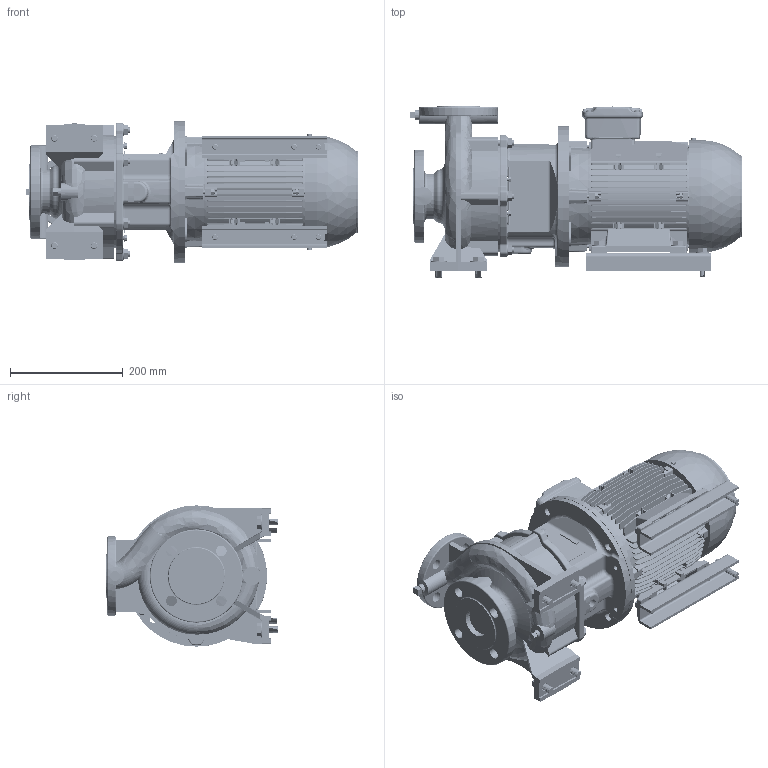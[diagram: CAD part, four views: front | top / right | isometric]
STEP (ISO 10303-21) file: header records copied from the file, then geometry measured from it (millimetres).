
FILE_DESCRIPTION (( 'STEP AP214' ), '1' );
FILE_NAME ('GSD2 32-160_3.0_(100L)_W21.STEP', '2026-07-02T04:54:21', ( '' ), ( '' ), 'SwSTEP 2.0', 'SolidWorks 2024', '' );
FILE_SCHEMA (( 'AUTOMOTIVE_DESIGN' ));
Length unit declared in the file: millimetre
Products named in the file (9): 140 x 32 - 271472023; 32-160-100L; Parametric bolt_SFT-A299B; GSD2  32-160_3.0_(100L)_W21; Parametric bolt_SFT-A259B; Parametric Flat Washer_M12; Parametric Flat Washer_M10; Parametric bolt_SFT-A253B; 100L ALIE3_W21T_B35
Assembly tree (24 placements, depth 2):
  GSD2  32-160_3.0_(100L)_W21
    32-160-100L
    100L ALIE3_W21T_B35
    140 x 32 - 271472023  x2
    Parametric bolt_SFT-A299B  x4
    Parametric bolt_SFT-A253B  x4
    Parametric bolt_SFT-A259B  x2
    Parametric Flat Washer_M12  x4
    Parametric Flat Washer_M10  x6
Bounding box: 587.75 x 304.5 x 250 mm (x, y, z)
Volume: 14445571.3 mm3; surface area: 1291518.2 mm2
Topology: 42 solids, 42 shells, 4232 faces, 11123 edges, 7207 vertices
Faces by surface type: plane 2330, cylinder 1119, torus 329, bspline 235, cone 201, sphere 18
Entity records: 184537 total; most frequent: CARTESIAN_POINT 92556, ORIENTED_EDGE 19926, DIRECTION 17781, EDGE_CURVE 9963, VERTEX_POINT 6465, LINE 6197, VECTOR 6197, AXIS2_PLACEMENT_3D 5792
